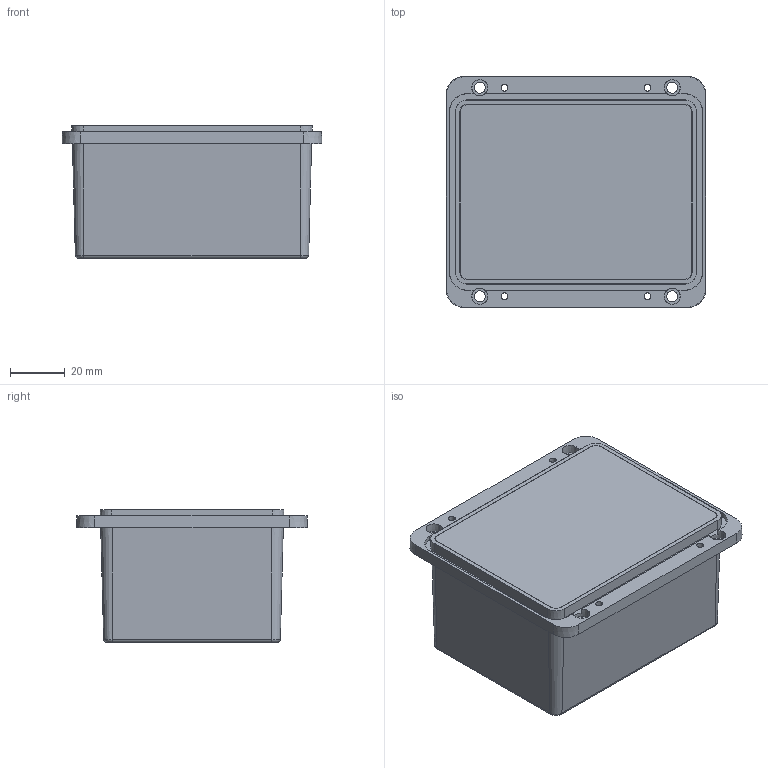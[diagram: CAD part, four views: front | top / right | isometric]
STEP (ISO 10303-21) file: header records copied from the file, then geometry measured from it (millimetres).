
FILE_DESCRIPTION((''),'2;1');
FILE_NAME('RTX200B_ASM','2020-10-10T',('ASUS'),(''),'PRO/ENGINEER BY PARAMETRIC TECHNOLOGY CORPORATION, 2008380','PRO/ENGINEER BY PARAMETRIC TECHNOLOGY CORPORATION, 2008380','');
FILE_SCHEMA(('CONFIG_CONTROL_DESIGN'));
Length unit declared in the file: millimetre
Products named in the file (4): PRT0032; PRT0033; RTX200_SW_ASM; RTX200B_ASM
Assembly tree (3 placements, depth 3):
  RTX200B_ASM
    RTX200_SW_ASM
      PRT0032
      PRT0033
Bounding box: 94.55 x 84.15 x 48.2 mm (x, y, z)
Volume: 94240.1 mm3; surface area: 96161.8 mm2
Topology: 2 solids, 2 shells, 1075 faces, 2976 edges, 1965 vertices
Faces by surface type: plane 664, cone 194, cylinder 151, bspline 50, torus 8, extrusion 8
Entity records: 40250 total; most frequent: CARTESIAN_POINT 12858, ORIENTED_EDGE 5952, DIRECTION 5291, EDGE_CURVE 2976, VERTEX_POINT 1965, VECTOR 1905, LINE 1897, AXIS2_PLACEMENT_3D 1693
